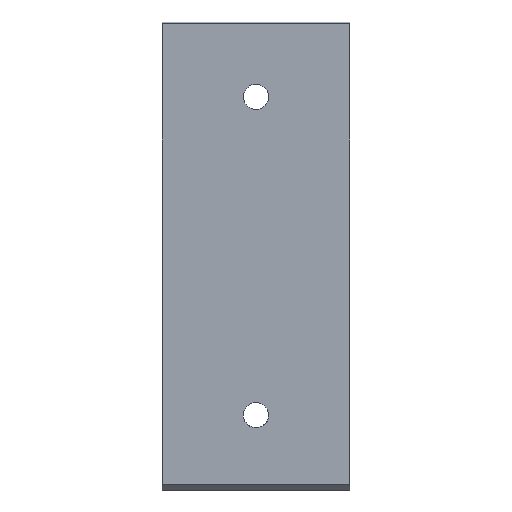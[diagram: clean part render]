
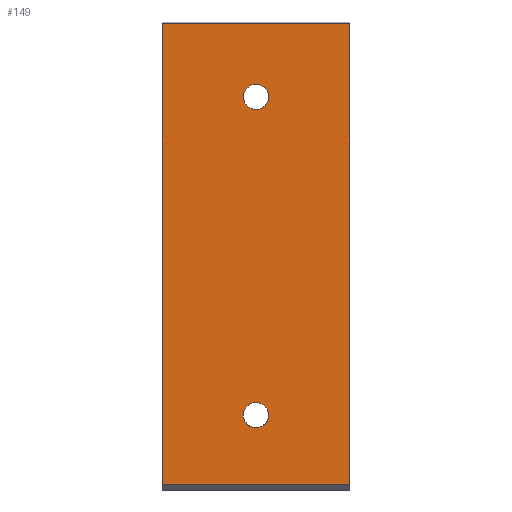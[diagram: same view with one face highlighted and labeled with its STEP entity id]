
A CAD part, left-side view. The second image highlights one B-rep face of the part: STEP entity #149.
In plain terms, the highlighted planar face has unit normal (-1, 0, 0).
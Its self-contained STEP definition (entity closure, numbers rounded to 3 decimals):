
#3 = CARTESIAN_POINT ( 'NONE',  ( 0., 4.922, 35.298 ) ) ;
#15 = CARTESIAN_POINT ( 'NONE',  ( 0., 0., 40. ) ) ;
#21 = VECTOR ( 'NONE', #228, 1000. ) ;
#25 = DIRECTION ( 'NONE',  ( -1., 0., 0. ) ) ;
#33 = CARTESIAN_POINT ( 'NONE',  ( 0., -50., 249. ) ) ;
#37 = LINE ( 'NONE', #521, #21 ) ;
#40 = DIRECTION ( 'NONE',  ( 0., 1., 0. ) ) ;
#43 = CARTESIAN_POINT ( 'NONE',  ( 0., -4.702, 35.078 ) ) ;
#44 = VERTEX_POINT ( 'NONE', #583 ) ;
#55 = CARTESIAN_POINT ( 'NONE',  ( 0., -6.726, 38.947 ) ) ;
#65 = CIRCLE ( 'NONE', #347, 6.75 ) ;
#76 = CIRCLE ( 'NONE', #291, 6.75 ) ;
#78 = CARTESIAN_POINT ( 'NONE',  ( 0., -5.924, 213.236 ) ) ;
#79 = EDGE_CURVE ( 'NONE', #489, #44, #37, .T. ) ;
#83 = FACE_BOUND ( 'NONE', #282, .T. ) ;
#99 = CARTESIAN_POINT ( 'NONE',  ( 0., -5.924, 43.236 ) ) ;
#102 = VERTEX_POINT ( 'NONE', #33 ) ;
#113 = VERTEX_POINT ( 'NONE', #121 ) ;
#119 = CARTESIAN_POINT ( 'NONE',  ( 0., 0., 210. ) ) ;
#121 = CARTESIAN_POINT ( 'NONE',  ( 0., 5.924, 36.764 ) ) ;
#126 = EDGE_LOOP ( 'NONE', ( #129, #376, #483, #415 ) ) ;
#129 = ORIENTED_EDGE ( 'NONE', *, *, #79, .F. ) ;
#131 = CARTESIAN_POINT ( 'NONE',  ( 0., 0., 249. ) ) ;
#133 = CARTESIAN_POINT ( 'NONE',  ( 0., -6.806, 39.844 ) ) ;
#140 = CARTESIAN_POINT ( 'NONE',  ( 0., 0., 3. ) ) ;
#146 = EDGE_LOOP ( 'NONE', ( #298, #178 ) ) ;
#149 = ADVANCED_FACE ( 'NONE', ( #366, #226, #83 ), #679, .T. ) ;
#150 = DIRECTION ( 'NONE',  ( 0., 0., 1. ) ) ;
#152 = DIRECTION ( 'NONE',  ( -1., 0., 0. ) ) ;
#161 = CARTESIAN_POINT ( 'NONE',  ( 0., 3.546, 34.189 ) ) ;
#178 = ORIENTED_EDGE ( 'NONE', *, *, #676, .F. ) ;
#190 = CARTESIAN_POINT ( 'NONE',  ( 0., 2.748, 33.772 ) ) ;
#207 = VECTOR ( 'NONE', #674, 1000. ) ;
#217 = LINE ( 'NONE', #643, #207 ) ;
#226 = FACE_BOUND ( 'NONE', #146, .T. ) ;
#228 = DIRECTION ( 'NONE',  ( 0., 1., 0. ) ) ;
#242 = CARTESIAN_POINT ( 'NONE',  ( 0., -5.811, 36.454 ) ) ;
#247 = VERTEX_POINT ( 'NONE', #589 ) ;
#251 = EDGE_CURVE ( 'NONE', #44, #247, #217, .T. ) ;
#258 = CARTESIAN_POINT ( 'NONE',  ( 0., -6.617, 41.601 ) ) ;
#265 = VERTEX_POINT ( 'NONE', #409 ) ;
#282 = EDGE_LOOP ( 'NONE', ( #469, #368 ) ) ;
#291 = AXIS2_PLACEMENT_3D ( 'NONE', #15, #25, #592 ) ;
#298 = ORIENTED_EDGE ( 'NONE', *, *, #598, .F. ) ;
#307 = DIRECTION ( 'NONE',  ( 0., 0., 1. ) ) ;
#311 = AXIS2_PLACEMENT_3D ( 'NONE', #119, #580, #599 ) ;
#315 = VERTEX_POINT ( 'NONE', #506 ) ;
#334 = VECTOR ( 'NONE', #307, 1000. ) ;
#336 = CARTESIAN_POINT ( 'NONE',  ( 0., -2.461, 33.653 ) ) ;
#342 = VERTEX_POINT ( 'NONE', #78 ) ;
#347 = AXIS2_PLACEMENT_3D ( 'NONE', #424, #435, #502 ) ;
#352 = VECTOR ( 'NONE', #40, 1000. ) ;
#366 = FACE_OUTER_BOUND ( 'NONE', #126, .T. ) ;
#368 = ORIENTED_EDGE ( 'NONE', *, *, #615, .F. ) ;
#376 = ORIENTED_EDGE ( 'NONE', *, *, #672, .T. ) ;
#377 = CARTESIAN_POINT ( 'NONE',  ( 0., -1.601, 33.383 ) ) ;
#395 = CARTESIAN_POINT ( 'NONE',  ( 0., 5.924, 36.764 ) ) ;
#403 = B_SPLINE_CURVE_WITH_KNOTS ( 'NONE', 3,
 ( #395, #495, #3, #161, #190, #572, #412, #377, #336, #579, #43, #242, #538, #55, #133, #258, #445, #99 ),
 .UNSPECIFIED., .F., .F.,
 ( 4, 2, 2, 2, 2, 2, 2, 2, 4 ),
 ( 0., 0.125, 0.25, 0.375, 0.5, 0.625, 0.75, 0.875, 1. ),
 .UNSPECIFIED. ) ;
#409 = CARTESIAN_POINT ( 'NONE',  ( 0., -5.924, 43.236 ) ) ;
#412 = CARTESIAN_POINT ( 'NONE',  ( 0., 0.156, 33.194 ) ) ;
#415 = ORIENTED_EDGE ( 'NONE', *, *, #251, .F. ) ;
#424 = CARTESIAN_POINT ( 'NONE',  ( 0., 0., 210. ) ) ;
#435 = DIRECTION ( 'NONE',  ( -1., 0., 0. ) ) ;
#436 = LINE ( 'NONE', #456, #334 ) ;
#443 = LINE ( 'NONE', #131, #352 ) ;
#445 = CARTESIAN_POINT ( 'NONE',  ( 0., -6.347, 42.461 ) ) ;
#456 = CARTESIAN_POINT ( 'NONE',  ( 0., -50., 126. ) ) ;
#469 = ORIENTED_EDGE ( 'NONE', *, *, #545, .F. ) ;
#483 = ORIENTED_EDGE ( 'NONE', *, *, #541, .T. ) ;
#486 = CIRCLE ( 'NONE', #311, 6.75 ) ;
#489 = VERTEX_POINT ( 'NONE', #503 ) ;
#495 = CARTESIAN_POINT ( 'NONE',  ( 0., 5.5, 35.988 ) ) ;
#502 = DIRECTION ( 'NONE',  ( 0., -1., 0. ) ) ;
#503 = CARTESIAN_POINT ( 'NONE',  ( 0., -50., 3. ) ) ;
#506 = CARTESIAN_POINT ( 'NONE',  ( 0., 5.924, 206.764 ) ) ;
#521 = CARTESIAN_POINT ( 'NONE',  ( 0., 0., 3. ) ) ;
#538 = CARTESIAN_POINT ( 'NONE',  ( 0., -6.228, 37.252 ) ) ;
#541 = EDGE_CURVE ( 'NONE', #102, #247, #443, .T. ) ;
#545 = EDGE_CURVE ( 'NONE', #315, #342, #65, .T. ) ;
#572 = CARTESIAN_POINT ( 'NONE',  ( 0., 1.053, 33.274 ) ) ;
#579 = CARTESIAN_POINT ( 'NONE',  ( 0., -4.012, 34.5 ) ) ;
#580 = DIRECTION ( 'NONE',  ( -1., 0., 0. ) ) ;
#583 = CARTESIAN_POINT ( 'NONE',  ( 0., 50., 3. ) ) ;
#589 = CARTESIAN_POINT ( 'NONE',  ( 0., 50., 249. ) ) ;
#592 = DIRECTION ( 'NONE',  ( 0., -1., 0. ) ) ;
#598 = EDGE_CURVE ( 'NONE', #113, #265, #403, .T. ) ;
#599 = DIRECTION ( 'NONE',  ( 0., -1., 0. ) ) ;
#615 = EDGE_CURVE ( 'NONE', #342, #315, #486, .T. ) ;
#635 = AXIS2_PLACEMENT_3D ( 'NONE', #140, #152, #150 ) ;
#643 = CARTESIAN_POINT ( 'NONE',  ( 0., 50., 126. ) ) ;
#672 = EDGE_CURVE ( 'NONE', #489, #102, #436, .T. ) ;
#674 = DIRECTION ( 'NONE',  ( 0., 0., 1. ) ) ;
#676 = EDGE_CURVE ( 'NONE', #265, #113, #76, .T. ) ;
#679 = PLANE ( 'NONE',  #635 ) ;
